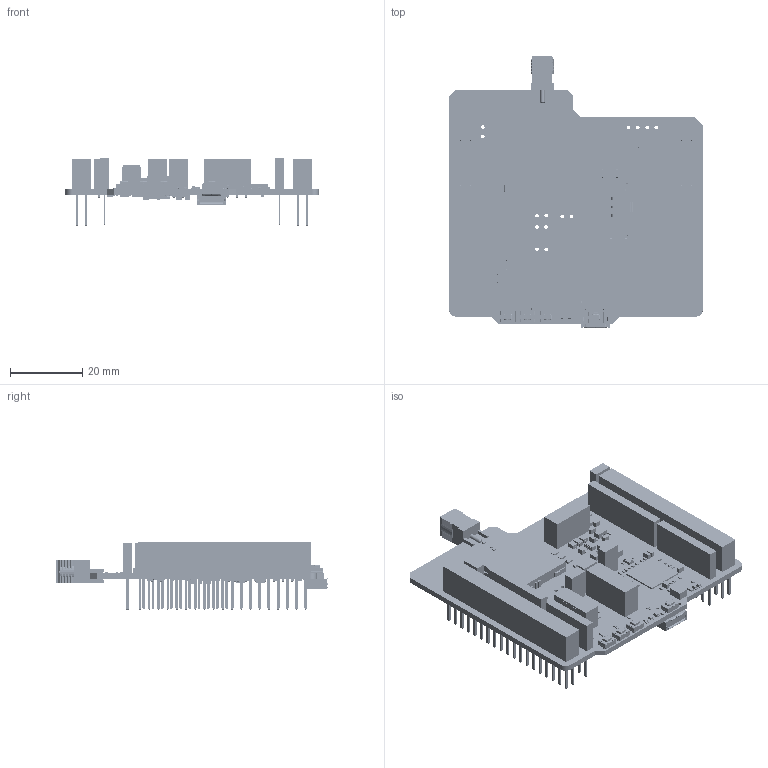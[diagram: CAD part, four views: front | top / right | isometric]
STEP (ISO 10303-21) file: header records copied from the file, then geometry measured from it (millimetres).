
FILE_DESCRIPTION(('Open CASCADE Model'),'2;1');
FILE_NAME('Open CASCADE Shape Model','2021-06-01T14:12:24',('Author'),( 'Open CASCADE'),'Open CASCADE STEP processor 6.8','Open CASCADE 6.8' ,'Unknown');
FILE_SCHEMA(('AUTOMOTIVE_DESIGN { 1 0 10303 214 1 1 1 1 }'));
Length unit declared in the file: millimetre
Products named in the file (471): PCB; Board; Open CASCADE STEP translator 6.8 1.1.1; SC8; s0981-46; 6537034416; Extruded; SC9; 6535930288; SC2; s0911-46; 6537033536; C35; C0603; 6537032816; L3; INDC1005X50-MURATA_LQW15A; 6538978672; SC7; Shield_clip_s0951-46; 6537034336; SC6; SC5; 6537028816; STICKER-3; 6535597328; STICKER-2; 6535597568; STICKER-1; 6535597808; B4; Switch-CK-KMR2; User_Library-Switch-CK-KMR2_Button; User_Library-Switch-CK-KMR2_Boitier; User_Library-Switch-CK-KMR2_Tole; User_Library-Switch-CK-KMR2_Pads; 6539429824; 6539429504; B1; B2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
Assembly tree (1111 placements, depth 4):
  PCB
    Board
      Open CASCADE STEP translator 6.8 1.1.1
    SC8
      s0981-46
      6537034416
        Extruded
    SC9
      s0981-46
      6535930288
        Extruded
    SC2
      s0911-46
      6537033536
        Extruded
    C35
      C0603
      6537032816
        Extruded
    L3
      INDC1005X50-MURATA_LQW15A
      6538978672
        Extruded
    SC7
      Shield_clip_s0951-46
      6537034336
        Extruded
    SC6
      Shield_clip_s0951-46
      6537034336
        Extruded
    SC5
      Shield_clip_s0951-46
      6537028816
        Extruded
    STICKER-3
      6535597328
        Extruded
    STICKER-2
      6535597568
        Extruded
    STICKER-1
      6535597808
        Extruded
    B4
      Switch-CK-KMR2
        User_Library-Switch-CK-KMR2_Button
        User_Library-Switch-CK-KMR2_Boitier
        User_Library-Switch-CK-KMR2_Tole
        User_Library-Switch-CK-KMR2_Pads
      6539429824
        Extruded
      6539429504
        Extruded
    B1
      Switch-CK-KMR2
        User_Library-Switch-CK-KMR2_Button
        User_Library-Switch-CK-KMR2_Boitier
        User_Library-Switch-CK-KMR2_Tole
        User_Library-Switch-CK-KMR2_Pads
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Bounding box: 69.97 x 75.15 x 18.67 mm (x, y, z)
Volume: 20681.7 mm3; surface area: 35866.3 mm2
Topology: 955 solids, 970 shells, 31241 faces, 75643 edges, 44984 vertices
Faces by surface type: plane 15632, cylinder 7652, bspline 5120, sphere 1937, revolution 584, torus 287, cone 29
Full cylindrical faces by diameter (mm): 0.2 x2, 0.3 x1, 0.4 x2, 0.5 x1, 0.6 x1, 0.9 x2, 0.97 x2, 1 x122, 1.1 x32, 1.19 x2, 1.27 x2, 4.1 x1, 4.25 x1, 4.63 x1, 5.35 x2, 6.33 x1
Entity records: 274492 total; most frequent: CARTESIAN_POINT 55133, ORIENTED_EDGE 36722, DIRECTION 36091, EDGE_CURVE 18364, LINE 15861, VECTOR 15861, VERTEX_POINT 11565, AXIS2_PLACEMENT_3D 10111
